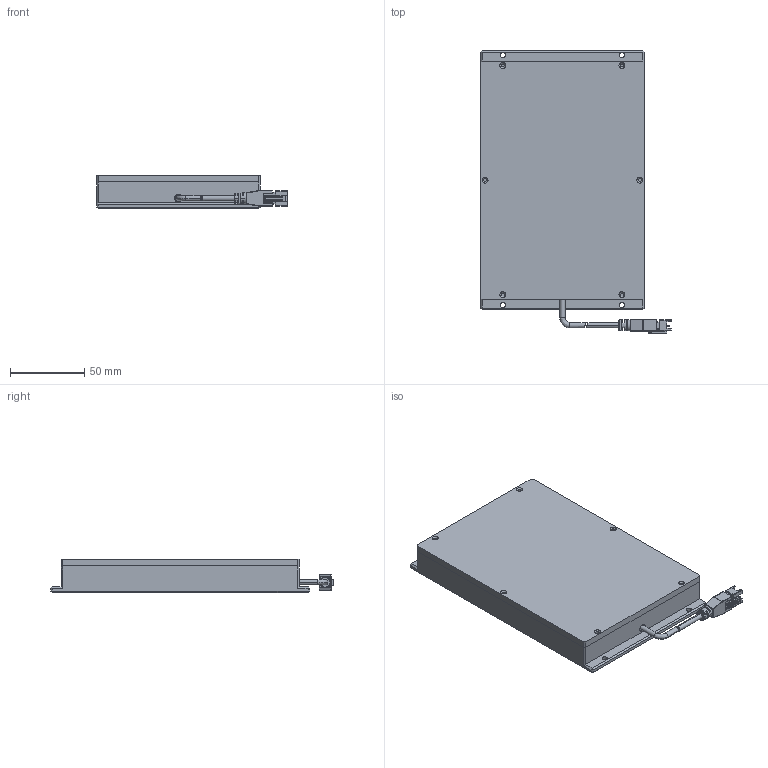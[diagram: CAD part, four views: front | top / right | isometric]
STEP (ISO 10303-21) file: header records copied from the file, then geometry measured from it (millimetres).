
FILE_DESCRIPTION (( 'STEP AP203' ), '1' );
FILE_NAME ('CRT-PFLD150100-¼òÒ×3DÍ¼.STEP', '2021-11-27T01:41:49', ( 'Admin' ), ( '' ), 'SwSTEP 2.0', 'SolidWorks 2018', '' );
FILE_SCHEMA (( 'CONFIG_CONTROL_DESIGN' ));
Length unit declared in the file: millimetre
Products named in the file (1): CRT-PFLD150100-潠眢3D芞
Bounding box: 128.23 x 189.95 x 22.5 mm (x, y, z)
Surface area: 52603 mm2 (no closed solid volume)
Topology: 0 solids, 4 shells, 257 faces, 731 edges, 459 vertices
Faces by surface type: plane 151, cylinder 75, cone 16, bspline 13, torus 2
Entity records: 8721 total; most frequent: CARTESIAN_POINT 2108, DIRECTION 1357, ORIENTED_EDGE 1294, EDGE_CURVE 723, VECTOR 477, LINE 477, VERTEX_POINT 459, AXIS2_PLACEMENT_3D 440
